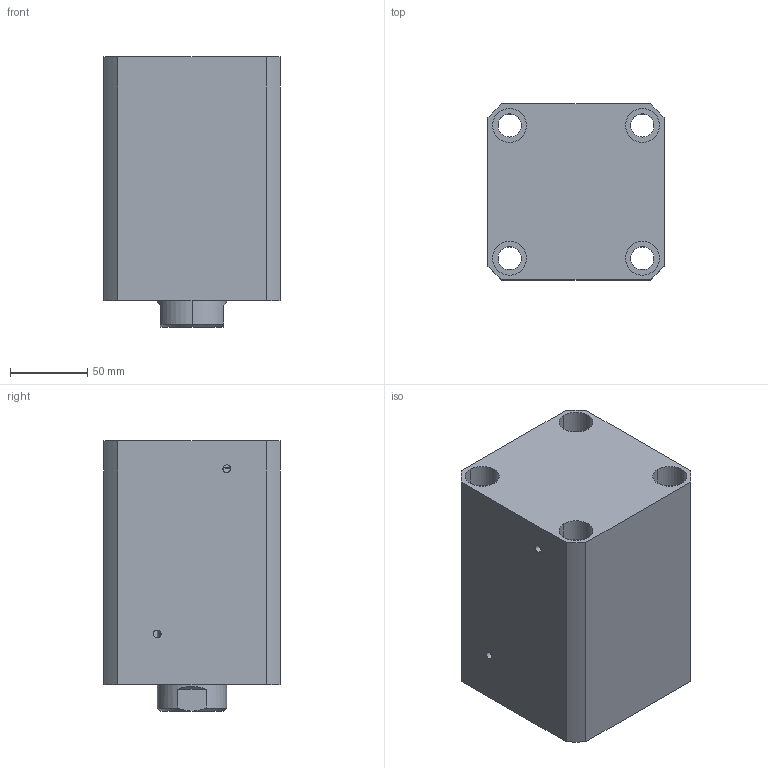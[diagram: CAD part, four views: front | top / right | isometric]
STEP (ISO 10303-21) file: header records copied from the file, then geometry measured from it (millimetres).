
FILE_DESCRIPTION (( 'STEP AP214' ), '1' );
FILE_NAME ('chtb-sdma80x80n_asm.STEP', '2018-05-29T02:21:47', ( 'Windows' ), ( 'Microsoft' ), 'SwSTEP 2.0', 'SolidWorks 2015', '' );
FILE_SCHEMA (( 'AUTOMOTIVE_DESIGN' ));
Length unit declared in the file: millimetre
Products named in the file (4): CHTB-SDMA80X80NBT; CHTB-SD80X80NHSG; CHTB-SD80QG; chtb-sdma80x80n_asm
Assembly tree (3 placements, depth 2):
  chtb-sdma80x80n_asm
    CHTB-SD80QG
    CHTB-SD80X80NHSG
    CHTB-SDMA80X80NBT
Bounding box: 114 x 114 x 175 mm (x, y, z)
Volume: 1602953.8 mm3; surface area: 232941.7 mm2
Topology: 3 solids, 3 shells, 190 faces, 516 edges, 345 vertices
Faces by surface type: cylinder 107, plane 35, torus 18, cone 16, bspline 14
Entity records: 15170 total; most frequent: CARTESIAN_POINT 10463, ORIENTED_EDGE 1020, DIRECTION 879, EDGE_CURVE 510, AXIS2_PLACEMENT_3D 368, VERTEX_POINT 345, EDGE_LOOP 227, FACE_OUTER_BOUND 190
